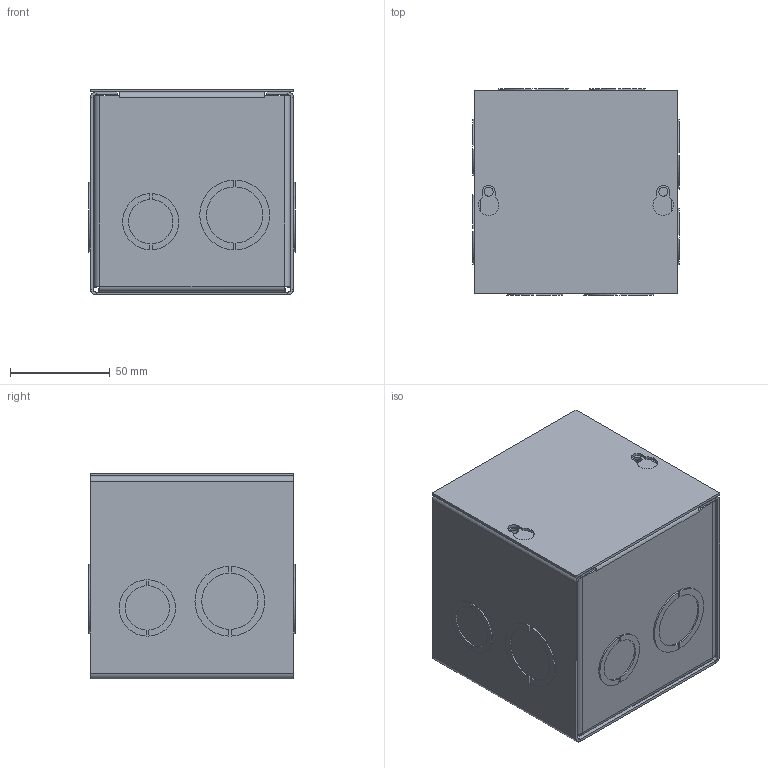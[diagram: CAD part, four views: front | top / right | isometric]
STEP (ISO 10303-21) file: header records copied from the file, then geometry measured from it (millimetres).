
FILE_DESCRIPTION (( 'STEP AP203' ), '1' );
FILE_NAME ('asg4x4x4.STEP', '2011-02-16T18:17:57', ( 'Hoffman User' ), ( 'Hoffman Enclosures' ), 'SwSTEP 2.0', 'SolidWorks 2009', '' );
FILE_SCHEMA (( 'CONFIG_CONTROL_DESIGN' ));
Length unit declared in the file: inch
Products named in the file (5): 43306001; asg4x4x4; 42304089; 89053773_WELDMENT; 89053746
Assembly tree (5 placements, depth 3):
  asg4x4x4
    89053773_WELDMENT
      43306001  x2
      89053746
    42304089
Bounding box: 103.19 x 103.19 x 103 mm (x, y, z)
Volume: 99899.9 mm3; surface area: 148835.5 mm2
Topology: 4 solids, 4 shells, 333 faces, 770 edges, 480 vertices
Faces by surface type: plane 199, cylinder 112, torus 10, bspline 8, cone 4
Entity records: 8143 total; most frequent: CARTESIAN_POINT 1678, DIRECTION 1288, ORIENTED_EDGE 1168, EDGE_CURVE 584, AXIS2_PLACEMENT_3D 456, LINE 376, VECTOR 376, VERTEX_POINT 366
